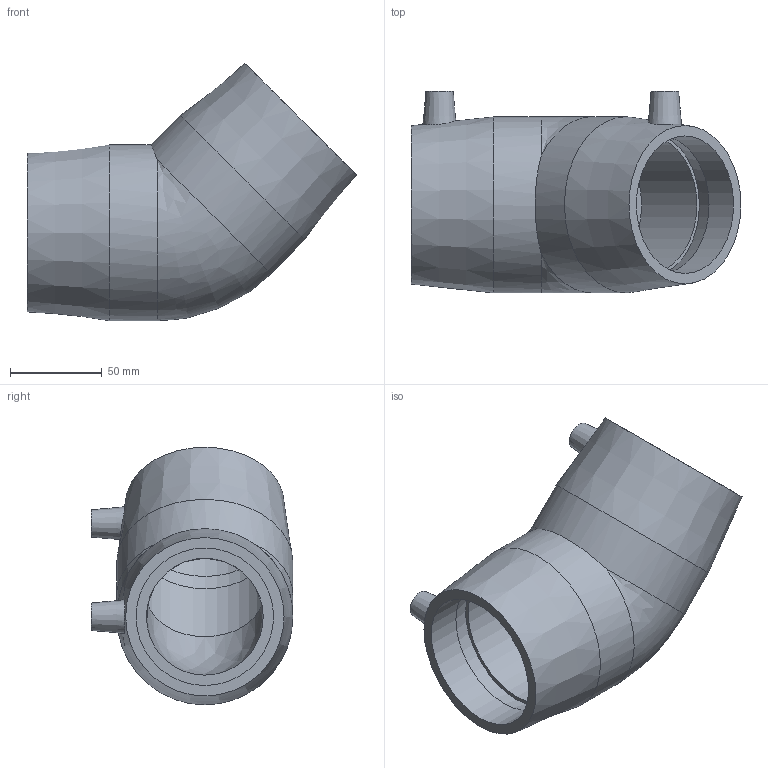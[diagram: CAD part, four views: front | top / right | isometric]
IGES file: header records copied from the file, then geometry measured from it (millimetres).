
Global section: file name: 490604075.ipt; native system: Autodesk Inventor 2015; preprocessor: unknown; author: KIM; date: 20171106.093652; units: millimetre
Bounding box: 180 x 110 x 140.45 mm (x, y, z)
Volume: 467116.9 mm3; surface area: 100189.1 mm2
Topology: 1 solids, 1 shells, 30 faces, 68 edges, 46 vertices
Faces by surface type: plane 12, revolution 9, cylinder 4, cone 4, bspline 1
Full cylindrical faces by diameter (mm): 4 x2, 96 x2
